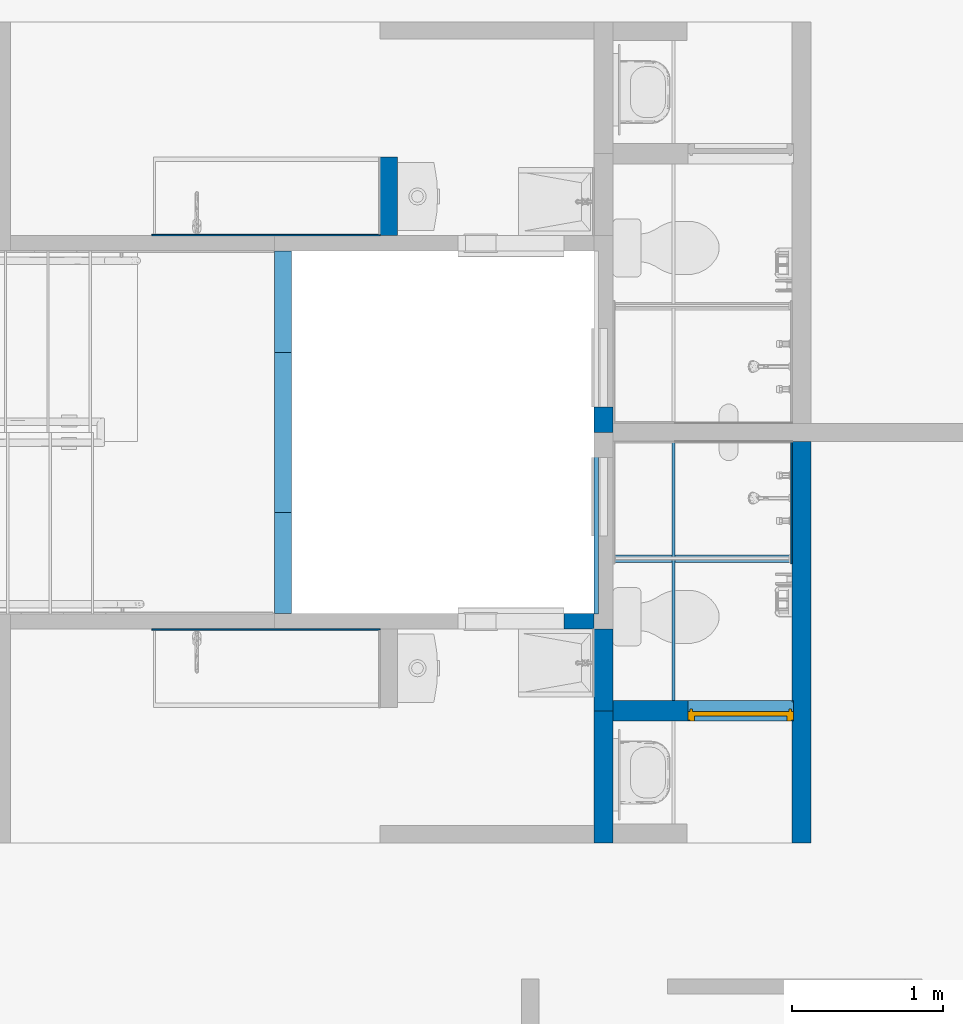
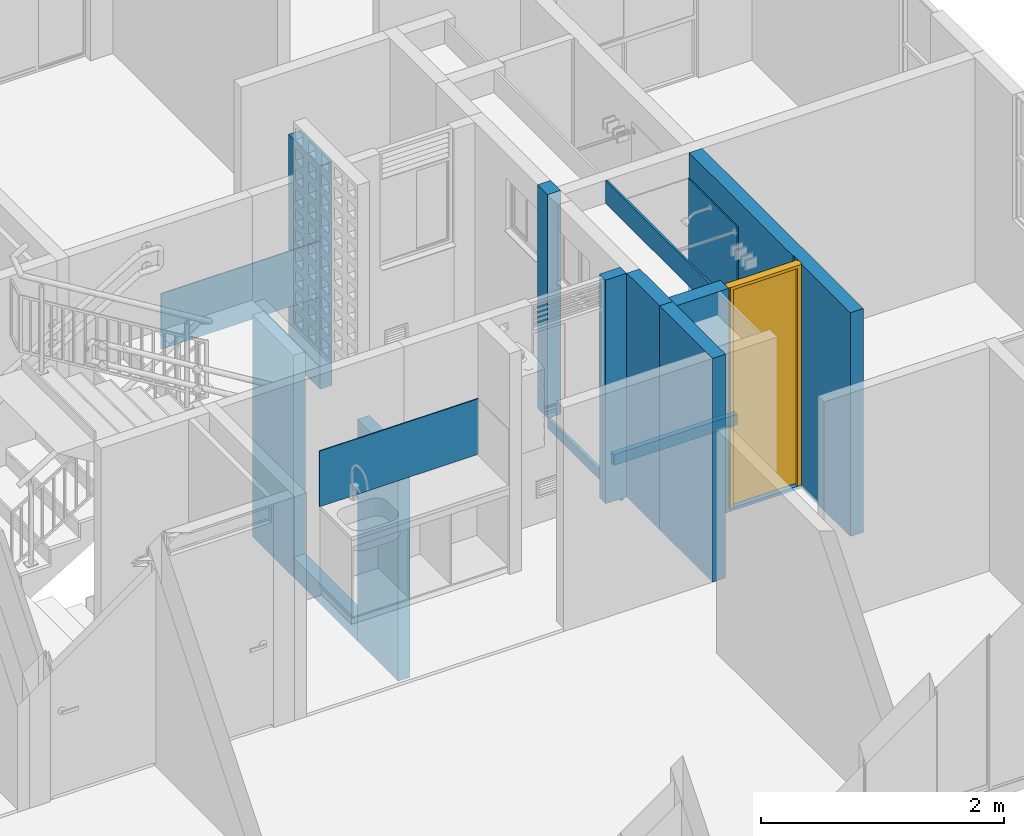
# One storey, part 14 of 48: 16 walls, 1 door, 2 openings.
"""IFC4 building model written with IfcOpenShell, lengths in metres."""

import ifcopenshell
import ifcopenshell.guid

model = None  # the IFC model being written
_history = None  # IfcOwnerHistory: only IFC2X3 demands one
_inside = {}  # id of a spatial element -> (the spatial element, [elements in it])
_under = {}  # id of a project, library or spatial element -> (it, [spatial elements below it])
_declared = {}  # id of a project -> (the project, [libraries it declares])
_typed = {}  # id of a type object -> (the type object, [elements of that type])
_made_of = {}  # id of a material, layer set ... -> (it, [elements and type objects made of it])


def new_model(schema):
    """Start an empty IFC model of exactly this schema.

    Asked for "IFC4X3", IfcOpenShell would pick the latest addendum, in which some entities
    have other attributes; the version numbers below select the first issue.
    IFC2X3 requires an IfcOwnerHistory on every rooted entity: one is made here for all.
    """
    global model, _history
    if schema == "IFC4X3":
        model = ifcopenshell.file(schema_version=(4, 3, 0, 0))
    else:
        model = ifcopenshell.file(schema=schema)
    _inside.clear()
    _under.clear()
    _declared.clear()
    _typed.clear()
    _made_of.clear()
    _history = None
    if model.schema == "IFC2X3":
        org = make("IfcOrganization", Name="unknown")
        user = make(
            "IfcPersonAndOrganization",
            ThePerson=make("IfcPerson", FamilyName="unknown"),
            TheOrganization=org,
        )
        app = make(
            "IfcApplication",
            ApplicationDeveloper=org,
            Version="unknown",
            ApplicationFullName="unknown",
            ApplicationIdentifier="unknown",
        )
        _history = make(
            "IfcOwnerHistory",
            OwningUser=user,
            OwningApplication=app,
            ChangeAction="ADDED",
            CreationDate=0,
        )
    return model


def make(cls, **values):
    """One entity of the class cls with the attributes given. An attribute that is None is left unset."""
    return model.create_entity(
        cls, **{name: value for name, value in values.items() if value is not None}
    )


def entity(cls, *values):
    """Any entity or typed value of the class cls, its attributes in the order of the schema. None: left unset."""
    e = model.create_entity(cls)
    for i, value in enumerate(values):
        if value is not None:
            e[i] = value
    return e


def rooted(cls, **values):
    """An entity with a GlobalId (a new one), such as an element, a storey or a relation."""
    return make(cls, GlobalId=ifcopenshell.guid.new(), OwnerHistory=_history, **values)


def si_unit(unit_type, name, prefix=None):
    """IfcSIUnit, for example si_unit("LENGTHUNIT", "METRE", prefix="MILLI")."""
    return make("IfcSIUnit", UnitType=unit_type, Prefix=prefix, Name=name)


def converted_unit(unit_type, name, factor, base, dimensions=None, offset=None):
    """IfcConversionBasedUnit, such as the inch: factor (a typed value) times the base unit."""
    return make(
        "IfcConversionBasedUnit"
        if offset is None
        else "IfcConversionBasedUnitWithOffset",
        ConversionOffset=offset,
        Dimensions=None
        if dimensions is None
        else entity("IfcDimensionalExponents", *dimensions),
        UnitType=unit_type,
        Name=name,
        ConversionFactor=make(
            "IfcMeasureWithUnit", ValueComponent=factor, UnitComponent=base
        ),
    )


def derived_unit(unit_type, elements):
    """IfcDerivedUnit: a product of units, each with its exponent."""
    return make(
        "IfcDerivedUnit",
        Elements=[
            make("IfcDerivedUnitElement", Unit=unit, Exponent=power)
            for unit, power in elements
        ],
        UnitType=unit_type,
    )


def assignment(units):
    """IfcUnitAssignment: the units of a project."""
    return None if units is None else make("IfcUnitAssignment", Units=units)


def point(xyz):
    """IfcCartesianPoint."""
    return None if xyz is None else make("IfcCartesianPoint", Coordinates=xyz)


def direction(xyz):
    """IfcDirection."""
    return None if xyz is None else make("IfcDirection", DirectionRatios=xyz)


def frame(location, z_axis=None, x_axis=None):
    """IfcAxis2Placement3D, a coordinate frame: its origin and axes. An axis left out is left unset."""
    return make(
        "IfcAxis2Placement3D",
        Location=point(location),
        Axis=direction(z_axis),
        RefDirection=direction(x_axis),
    )


def origin():
    """The frame at (0, 0, 0) with its axes left unset."""
    return frame((0.0, 0.0, 0.0))


def place(relative_to, where):
    """IfcLocalPlacement: puts the frame where relative to a parent placement (None: the world)."""
    return make(
        "IfcLocalPlacement", PlacementRelTo=relative_to, RelativePlacement=where
    )


def context(
    kind, dimensions, precision=None, world=None, true_north=None, identifier=None
):
    """IfcGeometricRepresentationContext, for example the 3D "Model" context."""
    return make(
        "IfcGeometricRepresentationContext",
        ContextIdentifier=identifier,
        ContextType=kind,
        CoordinateSpaceDimension=dimensions,
        Precision=precision,
        WorldCoordinateSystem=world,
        TrueNorth=true_north,
    )


def subcontext(parent, identifier, kind, view, scale=None):
    """IfcGeometricRepresentationSubContext, for example "Body" below "Model"."""
    return make(
        "IfcGeometricRepresentationSubContext",
        ContextIdentifier=identifier,
        ContextType=kind,
        ParentContext=parent,
        TargetScale=scale,
        TargetView=view,
    )


def project(units=None, contexts=None):
    """IfcProject with its units and contexts."""
    return rooted(
        "IfcProject",
        Name="project",
        RepresentationContexts=contexts,
        UnitsInContext=assignment(units),
    )


def spatial(cls, under=None, at=None, **own):
    """A site, building, storey or space (cls), placed at a placement, below another one or the project."""
    s = rooted(cls, ObjectPlacement=at, **own)
    if under is not None:
        _under.setdefault(under.id(), (under, []))[1].append(s)
    return s


def point_list(points):
    """IfcCartesianPointList2D or 3D."""
    cls = (
        "IfcCartesianPointList2D" if len(points[0]) == 2 else "IfcCartesianPointList3D"
    )
    return make(cls, CoordList=points)


def indexed_curve(points, segments=None, self_intersect=None):
    """IfcIndexedPolyCurve: lines and arcs through numbered points (the first is 1)."""
    return make(
        "IfcIndexedPolyCurve",
        Points=point_list(points),
        Segments=segments,
        SelfIntersect=self_intersect,
    )


def outline(outer, holes=None, kind="AREA"):
    """IfcArbitraryClosedProfileDef: a profile drawn as a closed curve; with holes, ...WithVoids."""
    if holes is None:
        return make("IfcArbitraryClosedProfileDef", ProfileType=kind, OuterCurve=outer)
    return make(
        "IfcArbitraryProfileDefWithVoids",
        ProfileType=kind,
        OuterCurve=outer,
        InnerCurves=holes,
    )


def extrude(swept, where, along, depth):
    """IfcExtrudedAreaSolid: the profile swept, set in the frame where, extruded along a direction by depth."""
    return make(
        "IfcExtrudedAreaSolid",
        SweptArea=swept,
        Position=where,
        ExtrudedDirection=direction(along),
        Depth=depth,
    )


def polygons(points, faces, closed=None, point_numbers=None):
    """IfcPolygonalFaceSet: a face is its outer loop, then its inner loops; points numbered from 1."""
    made = []
    for loops in faces:
        if len(loops) == 1:
            made.append(make("IfcIndexedPolygonalFace", CoordIndex=loops[0]))
        else:
            made.append(
                make(
                    "IfcIndexedPolygonalFaceWithVoids",
                    CoordIndex=loops[0],
                    InnerCoordIndices=loops[1:],
                )
            )
    return make(
        "IfcPolygonalFaceSet",
        Coordinates=point_list(points),
        Closed=closed,
        Faces=made,
        PnIndex=point_numbers,
    )


def shape(context_of_items, identifier, shape_type, items):
    """IfcShapeRepresentation: the items that make up one representation, for example the "Body"."""
    return make(
        "IfcShapeRepresentation",
        ContextOfItems=context_of_items,
        RepresentationIdentifier=identifier,
        RepresentationType=shape_type,
        Items=items,
    )


def source(mapping_origin, context_of_items, identifier, shape_type, items):
    """IfcRepresentationMap: a shape defined once, which mapped items show again and again."""
    return make(
        "IfcRepresentationMap",
        MappingOrigin=mapping_origin,
        MappedRepresentation=shape(context_of_items, identifier, shape_type, items),
    )


def transform(
    local_origin,
    x_axis=None,
    y_axis=None,
    z_axis=None,
    scale=None,
    scale2=None,
    scale3=None,
    uniform=True,
):
    """IfcCartesianTransformationOperator3D, or its non-uniform kind. x_axis, y_axis, z_axis: its Axis1, 2, 3."""
    if uniform:
        return make(
            "IfcCartesianTransformationOperator3D",
            Axis1=direction(x_axis),
            Axis2=direction(y_axis),
            LocalOrigin=point(local_origin),
            Scale=scale,
            Axis3=direction(z_axis),
        )
    return make(
        "IfcCartesianTransformationOperator3DnonUniform",
        Axis1=direction(x_axis),
        Axis2=direction(y_axis),
        LocalOrigin=point(local_origin),
        Scale=scale,
        Axis3=direction(z_axis),
        Scale2=scale2,
        Scale3=scale3,
    )


def mapped(mapping_source, mapping_target):
    """IfcMappedItem: shows the shape of a source again, moved by a transform."""
    return make(
        "IfcMappedItem", MappingSource=mapping_source, MappingTarget=mapping_target
    )


def material(Name=None, Category=None):
    """IfcMaterial."""
    return make("IfcMaterial", Name=Name, Category=Category)


def constituent(of_material, Name=None, Category=None, fraction=None):
    """IfcMaterialConstituent: one of the materials an element consists of."""
    return make(
        "IfcMaterialConstituent",
        Name=Name,
        Material=of_material,
        Fraction=fraction,
        Category=Category,
    )


def constituent_set(constituents=None, Name=None):
    """IfcMaterialConstituentSet."""
    return make(
        "IfcMaterialConstituentSet", Name=Name, MaterialConstituents=constituents
    )


def made_of(thing, what):
    """Note that an element or type object is made of a material, layer set ...; save() writes the relation."""
    if what is not None:
        _made_of.setdefault(what.id(), (what, []))[1].append(thing)
    return thing


def type_object(cls, material=None, **own):
    """A type object (cls), such as IfcWallType, which elements share."""
    return made_of(rooted(cls, **own), material)


def type_shapes(of_type, sources):
    """Give a type object the sources (RepresentationMaps) that its elements show as mapped items."""
    of_type.RepresentationMaps = sources


def element(
    cls,
    number,
    at=None,
    inside=None,
    cuts=None,
    type_object=None,
    material=None,
    context=None,
    identifier="Body",
    shape_type=None,
    held_by="IfcProductDefinitionShape",
    body=None,
    shapes=None,
    **own,
):
    """One element of the class cls, such as IfcWall. Its Tag is "e" and its number.

    at: its placement. inside: the storey or other place that contains it. cuts: it is an
    opening in that element (IfcRelVoidsElement). A single representation is given by context,
    identifier, shape_type and body (its items); several are given by shapes. held_by: the class
    of the entity that holds the representations. save() writes the other relations.
    """
    e = rooted(cls, Tag="e%d" % number, ObjectPlacement=at, **own)
    if body is not None:
        shapes = [shape(context, identifier, shape_type, body)]
    if shapes is not None:
        e.Representation = make(held_by, Representations=shapes)
    if inside is not None:
        _inside.setdefault(inside.id(), (inside, []))[1].append(e)
    if cuts is not None:
        rooted(
            "IfcRelVoidsElement", RelatingBuildingElement=cuts, RelatedOpeningElement=e
        )
    if type_object is not None:
        _typed.setdefault(type_object.id(), (type_object, []))[1].append(e)
    return made_of(e, material)


def fill(opening, filler):
    """IfcRelFillsElement: the door or window that sits in an opening."""
    return rooted(
        "IfcRelFillsElement",
        RelatingOpeningElement=opening,
        RelatedBuildingElement=filler,
    )


def aggregate(whole, parts):
    """IfcRelAggregates: a whole, such as a stair, and the parts it consists of."""
    return rooted("IfcRelAggregates", RelatingObject=whole, RelatedObjects=parts)


def save(model, path):
    """Write the relations noted so far, then the file.

    IfcRelAggregates (storeys below a building ...), IfcRelContainedInSpatialStructure (elements
    in a storey), IfcRelDefinesByType, IfcRelAssociatesMaterial and IfcRelDeclares: one each for
    every whole, place, type object, material and project.
    """
    for whole, parts in _under.values():
        aggregate(whole, parts)
    for where, things in _inside.values():
        rooted(
            "IfcRelContainedInSpatialStructure",
            RelatedElements=things,
            RelatingStructure=where,
        )
    for kind, things in _typed.values():
        rooted("IfcRelDefinesByType", RelatedObjects=things, RelatingType=kind)
    for what, things in _made_of.values():
        rooted("IfcRelAssociatesMaterial", RelatedObjects=things, RelatingMaterial=what)
    for by, libraries in _declared.values():
        rooted("IfcRelDeclares", RelatingContext=by, RelatedDefinitions=libraries)
    model.write(path)


model = new_model("IFC4")

# Units and contexts
model_context = context("Model", 3, precision=1e-05, world=origin(), true_north=direction((6.123031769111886e-17, 1.0)))
body_context = subcontext(model_context, "Body", "Model", "MODEL_VIEW")
ifc_project = project(units=[si_unit("LENGTHUNIT", "METRE"), si_unit("AREAUNIT", "SQUARE_METRE"), si_unit("VOLUMEUNIT", "CUBIC_METRE"), converted_unit("PLANEANGLEUNIT", "DEGREE", entity("IfcRatioMeasure", 0.017453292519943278), si_unit("PLANEANGLEUNIT", "RADIAN"), dimensions=[0, 0, 0, 0, 0, 0, 0]), si_unit("MASSUNIT", "GRAM", prefix="KILO"), derived_unit("MASSDENSITYUNIT", [(si_unit("MASSUNIT", "GRAM", prefix="KILO"), 1), (si_unit("LENGTHUNIT", "METRE"), -3)]), derived_unit("IONCONCENTRATIONUNIT", [(si_unit("MASSUNIT", "GRAM", prefix="KILO"), 1), (si_unit("LENGTHUNIT", "METRE"), -3)]), derived_unit("MOMENTOFINERTIAUNIT", [(si_unit("LENGTHUNIT", "METRE"), 4)]), si_unit("TIMEUNIT", "SECOND"), si_unit("FREQUENCYUNIT", "HERTZ"), si_unit("THERMODYNAMICTEMPERATUREUNIT", "DEGREE_CELSIUS"), derived_unit("THERMALTRANSMITTANCEUNIT", [(si_unit("MASSUNIT", "GRAM", prefix="KILO"), 1), (si_unit("THERMODYNAMICTEMPERATUREUNIT", "KELVIN"), -1), (si_unit("TIMEUNIT", "SECOND"), -3)]), derived_unit("THERMALCONDUCTANCEUNIT", [(si_unit("MASSUNIT", "GRAM", prefix="KILO"), 1), (si_unit("THERMODYNAMICTEMPERATUREUNIT", "KELVIN"), -1), (si_unit("TIMEUNIT", "SECOND"), -3), (si_unit("LENGTHUNIT", "METRE"), 1)]), derived_unit("VOLUMETRICFLOWRATEUNIT", [(si_unit("LENGTHUNIT", "METRE"), 3), (si_unit("TIMEUNIT", "SECOND"), -1)]), derived_unit("MASSFLOWRATEUNIT", [(si_unit("MASSUNIT", "GRAM", prefix="KILO"), 1), (si_unit("TIMEUNIT", "SECOND"), -1)]), derived_unit("ROTATIONALFREQUENCYUNIT", [(si_unit("TIMEUNIT", "SECOND"), -1)]), si_unit("ELECTRICCURRENTUNIT", "AMPERE"), si_unit("ELECTRICVOLTAGEUNIT", "VOLT"), si_unit("POWERUNIT", "WATT"), si_unit("FORCEUNIT", "NEWTON", prefix="KILO"), si_unit("ILLUMINANCEUNIT", "LUX"), si_unit("LUMINOUSFLUXUNIT", "LUMEN"), si_unit("LUMINOUSINTENSITYUNIT", "CANDELA"), derived_unit("USERDEFINED", [(si_unit("MASSUNIT", "GRAM", prefix="KILO"), -1), (si_unit("LENGTHUNIT", "METRE"), -2), (si_unit("TIMEUNIT", "SECOND"), 3), (si_unit("LUMINOUSFLUXUNIT", "LUMEN"), 1)]), derived_unit("USERDEFINED", [(si_unit("MASSUNIT", "GRAM", prefix="KILO"), 1), (si_unit("TIMEUNIT", "SECOND"), -3), (si_unit("LENGTHUNIT", "METRE"), 3), (si_unit("ELECTRICCURRENTUNIT", "AMPERE"), -2)]), derived_unit("SOUNDPOWERUNIT", [(si_unit("MASSUNIT", "GRAM", prefix="KILO"), 1), (si_unit("TIMEUNIT", "SECOND"), -3), (si_unit("LENGTHUNIT", "METRE"), 2)]), derived_unit("SOUNDPRESSUREUNIT", [(si_unit("MASSUNIT", "GRAM", prefix="KILO"), 1), (si_unit("LENGTHUNIT", "METRE"), -1), (si_unit("TIMEUNIT", "SECOND"), -2)]), derived_unit("LINEARVELOCITYUNIT", [(si_unit("LENGTHUNIT", "METRE"), 1), (si_unit("TIMEUNIT", "SECOND"), -1)]), si_unit("PRESSUREUNIT", "PASCAL"), derived_unit("USERDEFINED", [(si_unit("MASSUNIT", "GRAM", prefix="KILO"), 1), (si_unit("LENGTHUNIT", "METRE"), -2), (si_unit("TIMEUNIT", "SECOND"), -2)]), derived_unit("LINEARFORCEUNIT", [(si_unit("MASSUNIT", "GRAM", prefix="KILO"), 1), (si_unit("TIMEUNIT", "SECOND"), -2)]), derived_unit("PLANARFORCEUNIT", [(si_unit("MASSUNIT", "GRAM", prefix="KILO"), 1), (si_unit("LENGTHUNIT", "METRE"), -1), (si_unit("TIMEUNIT", "SECOND"), -2)]), derived_unit("SPECIFICHEATCAPACITYUNIT", [(si_unit("THERMODYNAMICTEMPERATUREUNIT", "KELVIN"), -1), (si_unit("LENGTHUNIT", "METRE"), 2), (si_unit("TIMEUNIT", "SECOND"), -2)]), derived_unit("HEATINGVALUEUNIT", [(si_unit("LENGTHUNIT", "METRE"), 2), (si_unit("TIMEUNIT", "SECOND"), -2)]), derived_unit("VAPORPERMEABILITYUNIT", [(si_unit("LENGTHUNIT", "METRE"), -1), (si_unit("TIMEUNIT", "SECOND"), 1)]), derived_unit("DYNAMICVISCOSITYUNIT", [(si_unit("MASSUNIT", "GRAM", prefix="KILO"), 1), (si_unit("TIMEUNIT", "SECOND"), -1), (si_unit("LENGTHUNIT", "METRE"), -1)]), derived_unit("THERMALEXPANSIONCOEFFICIENTUNIT", [(si_unit("THERMODYNAMICTEMPERATUREUNIT", "KELVIN"), -1)]), derived_unit("MODULUSOFELASTICITYUNIT", [(si_unit("MASSUNIT", "GRAM", prefix="KILO"), 1), (si_unit("LENGTHUNIT", "METRE"), -1), (si_unit("TIMEUNIT", "SECOND"), -2)]), derived_unit("ISOTHERMALMOISTURECAPACITYUNIT", [(si_unit("LENGTHUNIT", "METRE"), 3), (si_unit("MASSUNIT", "GRAM", prefix="KILO"), -1)]), derived_unit("MOISTUREDIFFUSIVITYUNIT", [(si_unit("TIMEUNIT", "SECOND"), -1), (si_unit("LENGTHUNIT", "METRE"), 2)])], contexts=[model_context])

# Site, building, storey
site_placement = place(None, origin())
site = spatial("IfcSite", under=ifc_project, at=site_placement, Name="Default", CompositionType="ELEMENT")
building_placement = place(site_placement, origin())
building = spatial("IfcBuilding", under=site, at=building_placement, CompositionType="ELEMENT")
storey_placement = place(building_placement, frame((0.0, 0.0, 4.700000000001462)))
storey = spatial("IfcBuildingStorey", under=building, at=storey_placement, Name="Nivel 3", CompositionType="ELEMENT", Elevation=4.700000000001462)

# Walls
ifc_material_1 = material(Name="Ladrillo claro (Aire)", Category="Materials")
wall_type_1 = type_object("IfcWallType", Name="Basic Wall:B2010 - 0.115m - Muro interior en mampostería - Ladrillo", PredefinedType="STANDARD")
wall_1_placement = place(storey_placement, frame((12.500000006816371, -7.62450002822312, -1.1750000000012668), z_axis=(0.0, 0.0, 1.0), x_axis=(0.0, 1.0, 0.0)))
element("IfcWall", 1, at=wall_1_placement, inside=storey, type_object=wall_type_1, material=ifc_material_1, Name="Basic Wall:B2010 - 0.115m - Muro interior en mampostería - Ladrillo", ObjectType="Basic Wall:B2010 - 0.115m - Muro interior en mampostería - Ladrillo", PredefinedType="NOTDEFINED", context=body_context, shape_type="SweptSolid", body=[
    extrude(outline(indexed_curve([(0.669594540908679, 0.05749999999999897), (-1.0377476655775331e-16, 0.057499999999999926), (1.0377476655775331e-16, -0.057499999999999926), (0.6695945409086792, -0.05750000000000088), (0.669594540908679, 0.05749999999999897)], self_intersect=False)), origin(), (0.0, 0.0, 1.0), 2.230000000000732),
])
wall_2_placement = place(storey_placement, frame((12.500000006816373, -5.897500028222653, -1.1750000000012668), z_axis=(0.0, 0.0, 1.0), x_axis=(0.0, 1.0, 0.0)))
element("IfcWall", 2, at=wall_2_placement, inside=storey, type_object=wall_type_1, material=ifc_material_1, Name="Basic Wall:B2010 - 0.115m - Muro interior en mampostería - Ladrillo", ObjectType="Basic Wall:B2010 - 0.115m - Muro interior en mampostería - Ladrillo", PredefinedType="NOTDEFINED", context=body_context, shape_type="SweptSolid", body=[
    extrude(outline(indexed_curve([(0.6719999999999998, 0.05749999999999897), (-1.0377476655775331e-16, 0.057499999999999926), (1.0377476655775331e-16, -0.057499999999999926), (0.672, -0.05750000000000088), (0.6719999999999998, 0.05749999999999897)], self_intersect=False)), origin(), (0.0, 0.0, 1.0), 2.230000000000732),
])
wall_3_placement = place(storey_placement, frame((12.500000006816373, -6.954905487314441, -1.1750000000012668), z_axis=(0.0, 0.0, 1.0), x_axis=(0.0, 1.0, 0.0)))
element("IfcWall", 3, at=wall_3_placement, inside=storey, type_object=wall_type_1, material=ifc_material_1, Name="Basic Wall:B2010 - 0.115m - Muro interior en mampostería - Ladrillo", ObjectType="Basic Wall:B2010 - 0.115m - Muro interior en mampostería - Ladrillo", PredefinedType="NOTDEFINED", context=body_context, shape_type="SweptSolid", body=[
    extrude(outline(indexed_curve([(1.057405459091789, 0.057499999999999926), (-1.1776912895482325e-16, 0.057499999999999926), (1.1776912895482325e-16, -0.057499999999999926), (1.0574054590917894, -0.057499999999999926), (1.057405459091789, 0.057499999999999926)], self_intersect=False)), origin(), (0.0, 0.0, 1.0), 0.20000000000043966),
])

# Wall, opening
ifc_material_2 = material(Name="Pañete", Category="Materials")
ifc_constituent_1 = constituent(ifc_material_2, Name="Pañete", Category="Materials")
ifc_constituent_2 = constituent(ifc_material_1, Name="Ladrillo claro (Aire)", Category="Materials")
ifc_constituent_set_1 = constituent_set(constituents=[ifc_constituent_1, ifc_constituent_2], Name="Basic Wall:B2010 - 0.115m - Muro interior en mampostería - Ladrillo + Pañete")
wall_type_2 = type_object("IfcWallType", Name="Basic Wall:B2010 - 0.115m - Muro interior en mampostería - Ladrillo + Pañete", PredefinedType="STANDARD", material=ifc_constituent_set_1)
wall_4_placement = place(storey_placement, frame((15.92999894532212, -9.139999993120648, 0.0), z_axis=(0.0, 0.0, 1.0), x_axis=(0.0, 1.0, 0.0)))
wall_4 = element("IfcWall", 4, at=wall_4_placement, inside=storey, type_object=wall_type_2, material=ifc_constituent_set_1, Name="Basic Wall:B2010 - 0.115m - Muro interior en mampostería - Ladrillo + Pañete", ObjectType="Basic Wall:B2010 - 0.115m - Muro interior en mampostería - Ladrillo + Pañete", PredefinedType="NOTDEFINED", context=body_context, shape_type="SweptSolid", body=[
    extrude(outline(indexed_curve([(-0.7550000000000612, -1.4629166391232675), (1.4949999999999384, -1.4629166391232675), (1.4949999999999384, 0.25208332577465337), (-0.7249999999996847, 0.25208332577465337), (-0.7249999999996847, 0.38708332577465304), (1.4949999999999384, 0.38708332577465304), (1.4949999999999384, 1.1920833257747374), (-0.7550000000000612, 1.1920833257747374), (-0.7550000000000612, 0.38708332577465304), (-0.7550000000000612, 0.25208332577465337), (-0.7550000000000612, -0.6629166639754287), (-0.7550000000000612, -0.7129166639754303), (-0.7550000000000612, -1.4629166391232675)], self_intersect=False)), frame((1.1920833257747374, 0.06250000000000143, 0.7550000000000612), z_axis=(0.0, -1.0, 0.0), x_axis=(0.0, 0.0, 1.0)), (0.0, 0.0, 1.0), 0.009999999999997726),
    extrude(outline(indexed_curve([(-0.05750000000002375, -1.3274999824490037), (0.0574999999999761, -1.3274999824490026), (0.05750000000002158, 1.3274999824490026), (-0.05749999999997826, 1.3274999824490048), (-0.05750000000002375, -1.3274999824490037)], self_intersect=False)), frame((1.3274999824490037, -0.00499999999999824, 0.0), z_axis=(0.0, 0.0, 1.0), x_axis=(0.0, 1.0, 0.0)), (0.0, 0.0, 1.0), 2.2499999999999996),
])
opening_1_placement = place(wall_4_placement, origin())
element("IfcOpeningElement", 5, at=opening_1_placement, cuts=wall_4, Name="Basic Wall:B2010 - 0.115m - Muro interior en mampostería - Ladrillo + Pañete", PredefinedType="OPENING", context=body_context, shape_type="SweptSolid", body=[
    extrude(outline(indexed_curve([(-0.06749999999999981, -1.1099999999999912), (0.06749999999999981, -1.1099999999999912), (0.06749999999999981, 1.1099999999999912), (-0.06749999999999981, 1.1099999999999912), (-0.06749999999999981, -1.1099999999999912)], self_intersect=False)), frame((0.8725000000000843, 0.05249999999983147, 1.1400000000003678), z_axis=(0.0, 1.0, 0.0), x_axis=(-1.0, 0.0, 0.0)), (0.0, 0.0, 1.0), 0.7000000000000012),
])

# Wall, opening, door
ifc_constituent_3 = constituent(ifc_material_2, Name="Pañete", Category="Materials")
ifc_material_3 = material(Name="LADRILLO CLARO", Category="Materials")
ifc_constituent_4 = constituent(ifc_material_3, Name="LADRILLO CLARO", Category="Materials")
ifc_constituent_5 = constituent(ifc_material_2, Name="Pañete (2)", Category="Materials")
ifc_constituent_set_2 = constituent_set(constituents=[ifc_constituent_3, ifc_constituent_4, ifc_constituent_5], Name="Basic Wall:B2010 - 0.115m - MI  mampostería no estructural - Pañete + Ladrillo + Pañete")
wall_type_3 = type_object("IfcWallType", Name="Basic Wall:B2010 - 0.115m - MI  mampostería no estructural - Pañete + Ladrillo + Pañete", PredefinedType="STANDARD", material=ifc_constituent_set_2)
wall_5_placement = place(storey_placement, frame((14.68250000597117, -8.267499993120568, 0.0)))
wall_5 = element("IfcWall", 6, at=wall_5_placement, inside=storey, type_object=wall_type_3, material=ifc_constituent_set_2, Name="Basic Wall:B2010 - 0.115m - MI  mampostería no estructural - Pañete + Ladrillo + Pañete", ObjectType="Basic Wall:B2010 - 0.115m - MI  mampostería no estructural - Pañete + Ladrillo + Pañete", PredefinedType="NOTDEFINED", context=body_context, shape_type="SweptSolid", body=[
    extrude(outline(indexed_curve([(-0.7600000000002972, -0.5599992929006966), (1.4900000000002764, -0.5599992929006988), (1.4900000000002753, -0.06500035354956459), (-0.729999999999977, -0.06500035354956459), (-0.729999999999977, 0.6249996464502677), (-0.7600000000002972, 0.6249996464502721), (-0.7600000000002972, -0.5599992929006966)], self_intersect=False)), frame((0.5599992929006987, 0.05750000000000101, 0.7600000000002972), z_axis=(0.0, 1.0, 0.0), x_axis=(0.0, 0.0, 1.0)), (0.0, 0.0, 1.0), 0.009999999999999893),
    extrude(outline(indexed_curve([(-1.1325000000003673, -0.5199994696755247), (1.1175000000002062, -0.5199994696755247), (1.1175000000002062, -0.12999946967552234), (1.1175000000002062, -0.10999946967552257), (1.1175000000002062, -0.025000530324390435), (-1.102500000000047, -0.025000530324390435), (-1.102500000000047, 0.6649994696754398), (-1.1325000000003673, 0.6649994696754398), (-1.1325000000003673, -0.5199994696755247)], self_intersect=False)), frame((0.5199994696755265, -0.06749999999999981, 1.1325000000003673), z_axis=(0.0, 1.0, 0.0), x_axis=(0.0, 0.0, 1.0)), (0.0, 0.0, 1.0), 0.009999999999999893),
    extrude(outline(indexed_curve([(-0.7600000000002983, -0.5633326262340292), (1.4900000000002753, -0.5633326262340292), (1.4900000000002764, -0.068333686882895), (-0.7299999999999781, -0.068333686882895), (-0.7299999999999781, 0.631666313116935), (-0.7600000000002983, 0.631666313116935), (-0.7600000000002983, -0.5633326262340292)], self_intersect=False)), frame((0.5633326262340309, -0.05750000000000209, 0.7600000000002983), z_axis=(0.0, 1.0, 0.0), x_axis=(0.0, 0.0, 1.0)), (0.0, 0.0, 1.0), 0.11499999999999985),
])
opening_2_placement = place(wall_5_placement, frame((0.49499893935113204, -0.06749999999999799, 0.0299999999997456)))
opening_2 = element("IfcOpeningElement", 7, at=opening_2_placement, cuts=wall_5, Name="C1030 - Puerta batiente - Madera+Aluminio:C1030 - 0.70 x 2.22 - Puerta batiente - Madera+ Metal:1", PredefinedType="OPENING", context=body_context, shape_type="SweptSolid", body=[
    extrude(outline(indexed_curve([(-2.8961849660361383e-19, 1.218225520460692e-15), (2.2199999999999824, 1.218225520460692e-15), (2.2199999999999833, 0.7000000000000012), (1.438182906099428e-16, 0.7000000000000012), (-2.8961849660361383e-19, 1.218225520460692e-15)], self_intersect=False)), frame((0.0, 0.0, 0.0), z_axis=(0.0, 1.0, 0.0), x_axis=(0.0, 0.0, 1.0)), (0.0, 0.0, 1.0), 0.13499999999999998),
])
ifc_material_4 = material(Name="<Unnamed>")
door_type = type_object("IfcDoorType", Name="C1030 - Puerta batiente - Madera+Aluminio:C1030 - 0.70 x 2.22 - Puerta batiente - Madera+ Metal", OperationType="SINGLE_SWING_RIGHT", PredefinedType="DOOR", material=ifc_material_4)
shared_shape = source(origin(), body_context, "Body", "Tessellation", [
    polygons([(0.030000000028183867, 0.06499999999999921, 0.009880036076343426), (0.6699999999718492, 0.06499999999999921, 0.009880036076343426), (0.6699999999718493, 0.0324999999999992, 0.009880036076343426), (0.030000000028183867, 0.0324999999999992, 0.009880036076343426), (0.030000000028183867, 0.06499999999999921, 2.2050000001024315), (0.030000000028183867, 0.0324999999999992, 2.2050000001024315), (0.6699999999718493, 0.0324999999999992, 2.2050000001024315), (0.6699999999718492, 0.06499999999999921, 2.2050000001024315)], [[[1, 2, 3, 4]], [[5, 1, 4, 6]], [[6, 4, 3, 7]], [[7, 3, 2, 8]], [[8, 2, 1, 5]], [[5, 6, 7, 8]]], closed=True),
    polygons([(0.015000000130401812, 0.0649999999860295, 0.0), (0.015000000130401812, 0.07999999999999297, 0.0), (0.030000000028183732, 0.07999999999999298, 0.0), (0.030000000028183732, 0.04000000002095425, 0.0), (0.045000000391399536, 0.04000000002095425, 0.0), (0.045000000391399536, -1.6919798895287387e-17, 0.0), (0.015000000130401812, -5.075939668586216e-17, 0.0), (0.015000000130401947, 0.007499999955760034, 0.0), (1.651372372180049e-14, 0.0074999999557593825, 0.0), (1.651372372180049e-14, 0.0649999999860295, 0.0), (1.651372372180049e-14, 0.0074999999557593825, 2.2199999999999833), (0.015000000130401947, 0.007499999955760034, 2.2199999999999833), (0.015000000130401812, 0.0649999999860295, 2.2199999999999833), (1.651372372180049e-14, 0.0649999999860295, 2.2199999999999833), (0.6849999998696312, 0.06499999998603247, 0.0), (0.7000000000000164, 0.06499999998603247, 0.0), (0.7000000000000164, 0.007499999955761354, 0.0), (0.6849999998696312, 0.007499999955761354, 0.0), (0.6849999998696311, 0.0, 0.0), (0.6549999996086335, 0.0, 0.0), (0.6549999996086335, 0.04000000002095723, 0.0), (0.6699999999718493, 0.04000000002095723, 0.0), (0.6699999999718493, 0.07999999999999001, 0.0), (0.6849999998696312, 0.07999999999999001, 0.0), (0.7000000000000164, 0.06499999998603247, 2.2199999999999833), (0.6849999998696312, 0.06499999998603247, 2.2199999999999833), (0.6849999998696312, 0.007499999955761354, 2.2199999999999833), (0.7000000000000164, 0.007499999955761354, 2.2199999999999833), (0.6549999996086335, 0.0, 2.189999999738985), (0.6549999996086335, 0.03250000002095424, 2.189999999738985), (0.6549999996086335, 0.03250000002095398, 2.2050000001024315), (0.6549999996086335, 0.04000000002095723, 2.2050000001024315), (0.045000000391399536, 0.04000000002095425, 2.2050000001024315), (0.045000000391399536, 0.03250000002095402, 2.2050000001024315), (0.045000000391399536, 0.032500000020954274, 2.189999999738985), (0.045000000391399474, -1.6919798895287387e-17, 2.189999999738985), (0.6699999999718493, 0.04000000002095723, 2.2050000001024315), (0.6699999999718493, 0.07249999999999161, 2.2050000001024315), (0.6699999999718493, 0.07249999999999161, 2.2199999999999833), (0.6699999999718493, 0.07999999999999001, 2.2199999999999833), (0.030000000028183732, 0.07999999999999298, 2.2199999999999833), (0.030000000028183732, 0.07249999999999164, 2.2199999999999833), (0.030000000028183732, 0.07249999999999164, 2.2050000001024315), (0.030000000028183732, 0.04000000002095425, 2.2050000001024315), (0.6849999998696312, 0.07999999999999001, 2.2199999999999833), (0.6849999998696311, 0.0, 2.2199999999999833), (0.015000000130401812, -5.075939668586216e-17, 2.2199999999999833), (0.015000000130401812, 0.07999999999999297, 2.2199999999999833)], [[[1, 2, 3, 4, 5, 6, 7, 8, 9, 10]], [[11, 9, 8, 12]], [[13, 1, 10, 14]], [[15, 16, 17, 18, 19, 20, 21, 22, 23, 24]], [[25, 16, 15, 26]], [[27, 18, 17, 28]], [[20, 29, 30, 31, 32, 21]], [[5, 33, 34, 35, 36, 6]], [[22, 37, 38, 39, 40, 23]], [[3, 41, 42, 43, 44, 4]], [[28, 17, 16, 25]], [[14, 10, 9, 11]], [[26, 15, 24, 45]], [[45, 24, 23, 40]], [[21, 32, 37, 22]], [[19, 46, 47, 7, 6, 36, 29, 20]], [[46, 19, 18, 27]], [[12, 8, 7, 47]], [[48, 2, 1, 13]], [[26, 45, 40, 39, 42, 41, 48, 13, 14, 11, 12, 47, 46, 27, 28, 25]], [[38, 37, 32, 31, 34, 33, 44, 43]], [[36, 35, 30, 29]], [[4, 44, 33, 5]], [[41, 3, 2, 48]], [[35, 34, 31, 30]], [[43, 42, 39, 38]]], closed=True),
])
type_shapes(door_type, [shared_shape])
door_placement = place(opening_2_placement, origin())
door = element("IfcDoor", 8, at=door_placement, inside=storey, type_object=door_type, material=ifc_material_4, Name="C1030 - Puerta batiente - Madera+Aluminio:C1030 - 0.70 x 2.22 - Puerta batiente - Madera+ Metal", ObjectType="C1030 - Puerta batiente - Madera+Aluminio:C1030 - 0.70 x 2.22 - Puerta batiente - Madera+ Metal", OperationType="SINGLE_SWING_RIGHT", OverallHeight=2.2199999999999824, OverallWidth=0.7000000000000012, PredefinedType="DOOR", context=body_context, shape_type="MappedRepresentation", body=[
    mapped(shared_shape, transform((0.0, 0.0, 0.0), scale=1.0)),
])
fill(opening_2, door)

# Walls
ifc_material_5 = material(Name="PINTURA BLANCA PARA EXTERIORES", Category="Materials")
ifc_constituent_6 = constituent(ifc_material_5, Name="PINTURA BLANCA PARA EXTERIORES", Category="Materials")
ifc_material_6 = material(Name="Concreto - Fundido in situ", Category="Materials")
ifc_constituent_7 = constituent(ifc_material_6, Name="Concreto - Fundido in situ", Category="Materials")
ifc_constituent_set_3 = constituent_set(constituents=[ifc_constituent_6, ifc_constituent_7], Name="Basic Wall:B2010 - 0.10m - MI no estructural- Concreto + repello+ pintura blanca")
wall_type_4 = type_object("IfcWallType", Name="Basic Wall:B2010 - 0.10m - MI no estructural- Concreto + repello+ pintura blanca", PredefinedType="STANDARD", material=ifc_constituent_set_3)
wall_6_placement = place(storey_placement, frame((14.557500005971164, -7.675000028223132, 0.0), z_axis=(0.0, 0.0, 1.0), x_axis=(-1.0, 0.0, 0.0)))
element("IfcWall", 9, at=wall_6_placement, inside=storey, type_object=wall_type_4, material=ifc_constituent_set_3, Name="Basic Wall:B2010 - 0.10m - MI no estructural- Concreto + repello+ pintura blanca", ObjectType="Basic Wall:B2010 - 0.10m - MI no estructural- Concreto + repello+ pintura blanca", PredefinedType="NOTDEFINED", context=body_context, shape_type="SweptSolid", body=[
    extrude(outline(indexed_curve([(-0.0004999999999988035, -0.10000000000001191), (0.0005000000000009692, -0.10000000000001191), (0.0004999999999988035, 0.10000000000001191), (-0.0005000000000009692, 0.10000000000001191), (-0.0004999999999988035, -0.10000000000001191)], self_intersect=False)), frame((0.10000000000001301, -0.04999999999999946, 0.0), z_axis=(0.0, 0.0, 1.0), x_axis=(0.0, 1.0, 0.0)), (0.0, 0.0, 1.0), 2.2499999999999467),
    extrude(outline(indexed_curve([(-0.050000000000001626, -0.10000000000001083), (0.04999999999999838, -0.10000000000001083), (0.050000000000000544, 0.10000000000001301), (-0.04999999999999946, 0.10000000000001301), (-0.050000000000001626, -0.10000000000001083)], self_intersect=False)), frame((0.1000000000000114, 0.0004999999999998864, 0.0), z_axis=(0.0, 0.0, 1.0), x_axis=(0.0, -1.0, 0.0)), (0.0, 0.0, 1.0), 2.2499999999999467),
])
wall_type_5 = type_object("IfcWallType", Name="Basic Wall:B2010 - 0.115m - MI mampostería no estructural - Ladrillo", PredefinedType="STANDARD")
wall_7_placement = place(storey_placement, frame((13.200000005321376, -4.605000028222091, 0.0), z_axis=(0.0, 0.0, 1.0), x_axis=(0.0, -1.0, 0.0)))
element("IfcWall", 10, at=wall_7_placement, inside=storey, type_object=wall_type_5, material=ifc_material_3, Name="Basic Wall:B2010 - 0.115m - MI mampostería no estructural - Ladrillo", ObjectType="Basic Wall:B2010 - 0.115m - MI mampostería no estructural - Ladrillo", PredefinedType="NOTDEFINED", context=body_context, shape_type="SweptSolid", body=[
    extrude(outline(indexed_curve([(0.5195000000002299, 0.0574999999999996), (-2.0425946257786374e-16, 0.057499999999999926), (2.0425946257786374e-16, -0.057499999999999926), (0.5195000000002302, -0.057500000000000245), (0.5195000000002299, 0.0574999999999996)], self_intersect=False)), origin(), (0.0, 0.0, 1.0), 2.2500000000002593),
])
ifc_material_7 = material(Name="Pañete, estuco y pintura", Category="Materials")
ifc_constituent_8 = constituent(ifc_material_7, Name="Pañete, estuco y pintura", Category="Materials")
ifc_constituent_9 = constituent(ifc_material_1, Name="Ladrillo claro (Aire)", Category="Materials")
ifc_constituent_set_4 = constituent_set(constituents=[ifc_constituent_8, ifc_constituent_9], Name="Basic Wall:B2010 - 0.115m - Muro interior en mampostería - Ladrillo + Pañete+ estuco+ pintura")
wall_type_6 = type_object("IfcWallType", Name="Basic Wall:B2010 - 0.115m - Muro interior en mampostería - Ladrillo + Pañete+ estuco+ pintura", PredefinedType="STANDARD", material=ifc_constituent_set_4)
wall_8_placement = place(storey_placement, frame((14.620000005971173, -9.139999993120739, 0.0), z_axis=(0.0, 0.0, 1.0), x_axis=(0.0, 1.0, 0.0)))
element("IfcWall", 11, at=wall_8_placement, inside=storey, type_object=wall_type_6, material=ifc_constituent_set_4, Name="Basic Wall:B2010 - 0.115m - Muro interior en mampostería - Ladrillo + Pañete+ estuco+ pintura", ObjectType="Basic Wall:B2010 - 0.115m - Muro interior en mampostería - Ladrillo + Pañete+ estuco+ pintura", PredefinedType="NOTDEFINED", context=body_context, shape_type="SweptSolid", body=[
    extrude(outline(indexed_curve([(-0.32083333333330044, -0.003333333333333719), (0.35916666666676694, -0.003333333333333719), (0.4266666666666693, -0.0033333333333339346), (0.4266666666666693, 0.006666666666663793), (-0.44583333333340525, 0.006666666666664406), (-0.44583333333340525, -0.003333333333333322), (-0.32083333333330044, -0.003333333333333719)], self_intersect=False)), frame((0.44583333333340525, -0.059166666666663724, 0.0)), (0.0, 0.0, 1.0), 2.2499999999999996),
    extrude(outline(indexed_curve([(0.2570000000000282, -0.046000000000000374), (0.37200000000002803, -0.046000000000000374), (0.37200000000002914, 0.06900000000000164), (-0.5005000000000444, 0.06899999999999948), (-0.5005000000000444, -0.04600000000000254), (0.2570000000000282, -0.046000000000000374)], self_intersect=False)), frame((0.3720000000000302, 0.016500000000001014, 0.0), z_axis=(0.0, 0.0, 1.0), x_axis=(-1.0, 0.0, 0.0)), (0.0, 0.0, 1.0), 2.2499999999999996),
])
wall_9_placement = place(storey_placement, frame((14.620000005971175, -8.26749999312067, 0.0), z_axis=(0.0, 0.0, 1.0), x_axis=(0.0, 1.0, 0.0)))
element("IfcWall", 12, at=wall_9_placement, inside=storey, type_object=wall_type_6, material=ifc_constituent_set_4, Name="Basic Wall:B2010 - 0.115m - Muro interior en mampostería - Ladrillo + Pañete+ estuco+ pintura", ObjectType="Basic Wall:B2010 - 0.115m - Muro interior en mampostería - Ladrillo + Pañete+ estuco+ pintura", PredefinedType="NOTDEFINED", context=body_context, shape_type="SweptSolid", body=[
    extrude(outline(indexed_curve([(-0.16280569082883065, -0.003999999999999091), (0.3117085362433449, -0.003999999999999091), (0.3117085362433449, 0.005999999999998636), (-0.23030569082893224, 0.005999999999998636), (-0.23030569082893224, -0.003999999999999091), (-0.16280569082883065, -0.003999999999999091)], self_intersect=False)), frame((0.23030569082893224, -0.05850000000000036, 0.0)), (0.0, 0.0, 1.0), 2.2499999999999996),
    extrude(outline(indexed_curve([(0.09067143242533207, -0.03833333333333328), (0.12467143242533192, -0.03833333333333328), (0.21717139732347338, -0.03833333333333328), (0.21717139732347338, 0.07666666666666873), (-0.32484282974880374, 0.07666666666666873), (-0.32484282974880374, -0.03833333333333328), (0.09067143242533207, -0.03833333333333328)], self_intersect=False)), frame((0.21717139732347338, 0.024166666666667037, 0.0), z_axis=(0.0, 0.0, 1.0), x_axis=(-1.0, 0.0, 0.0)), (0.0, 0.0, 1.0), 2.2499999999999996),
])
ifc_material_8 = material(Name="Ceramica 0.25m x 0.35m", Category="Materials")
wall_type_7 = type_object("IfcWallType", Name="Basic Wall:C2010 - 0.25 x 0.35 - Enchape cerámico", PredefinedType="STANDARD")
wall_10_placement = place(storey_placement, frame((15.862498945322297, -6.485000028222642, 0.02999999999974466), z_axis=(0.0, 0.0, 1.0), x_axis=(0.0, -1.0, 0.0)))
element("IfcWall", 13, at=wall_10_placement, inside=storey, type_object=wall_type_7, material=ifc_material_8, Name="Basic Wall:C2010 - 0.25 x 0.35 - Enchape cerámico", ObjectType="Basic Wall:C2010 - 0.25 x 0.35 - Enchape cerámico", PredefinedType="NOTDEFINED", context=body_context, shape_type="SweptSolid", body=[
    extrude(outline(indexed_curve([(0.8100000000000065, 0.005000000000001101), (-4.468811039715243e-19, 0.005000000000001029), (4.468811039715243e-19, -0.005000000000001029), (0.8100000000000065, -0.005000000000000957), (0.8100000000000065, 0.005000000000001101)], self_intersect=False)), origin(), (0.0, 0.0, 1.0), 1.9700000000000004),
])
ifc_material_9 = material(Name="0 muro divisorio", Category="Materials")
wall_type_8 = type_object("IfcWallType", Name="Basic Wall:B2010 - 0.05m - Poyo para duchas - Concreto", PredefinedType="STANDARD")
wall_11_placement = place(storey_placement, frame((15.86749894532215, -7.260000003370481, 0.0), z_axis=(0.0, 0.0, 1.0), x_axis=(-1.0, 0.0, 0.0)))
element("IfcWall", 14, at=wall_11_placement, inside=storey, type_object=wall_type_8, material=ifc_material_9, Name="Basic Wall:B2010 - 0.05m - Poyo para duchas - Concreto", ObjectType="Basic Wall:B2010 - 0.05m - Poyo para duchas - Concreto", PredefinedType="NOTDEFINED", context=body_context, shape_type="SweptSolid", body=[
    extrude(outline(indexed_curve([(1.174998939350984, 0.024999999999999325), (7.772420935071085e-17, 0.02499999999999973), (-7.772420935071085e-17, -0.02499999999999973), (1.1749989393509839, -0.025000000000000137), (1.174998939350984, 0.024999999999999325)], self_intersect=False)), origin(), (0.0, 0.0, 1.0), 0.11000000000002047),
])
ifc_material_10 = material(Name="Plasterboard", Category="Materials")
wall_type_9 = type_object("IfcWallType", Name="Basic Wall:C1070 - 0.02m - Plafón - Drywall", PredefinedType="STANDARD")
wall_12_placement = place(storey_placement, frame((15.082500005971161, -6.485000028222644, 2.019999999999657), z_axis=(0.0, 0.0, 1.0), x_axis=(0.0, -1.0, 0.0)))
element("IfcWall", 15, at=wall_12_placement, inside=storey, type_object=wall_type_9, material=ifc_material_10, Name="Basic Wall:C1070 - 0.02m - Plafón - Drywall", ObjectType="Basic Wall:C1070 - 0.02m - Plafón - Drywall", PredefinedType="NOTDEFINED", context=body_context, shape_type="SweptSolid", body=[
    extrude(outline(indexed_curve([(1.714999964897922, 0.009999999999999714), (1.366511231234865e-17, 0.009999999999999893), (-1.366511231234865e-17, -0.009999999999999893), (1.714999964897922, -0.01000000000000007), (1.714999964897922, 0.009999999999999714)], self_intersect=False)), origin(), (0.0, 0.0, 1.0), 0.23000000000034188),
])
ifc_material_11 = material(Name="Ceramica Salpicadero 0.28m x 0.45m", Category="Materials")
wall_type_10 = type_object("IfcWallType", Name="Basic Wall:C2010 - 0.28 x 0.45 - Salpicadero - Cerámica", PredefinedType="STANDARD")
wall_13_placement = place(storey_placement, frame((13.142500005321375, -5.120000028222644, 0.9299999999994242), z_axis=(0.0, 0.0, 1.0), x_axis=(-1.0, 0.0, 0.0)))
element("IfcWall", 16, at=wall_13_placement, inside=storey, type_object=wall_type_10, material=ifc_material_11, Name="Basic Wall:C2010 - 0.28 x 0.45 - Salpicadero - Cerámica", ObjectType="Basic Wall:C2010 - 0.28 x 0.45 - Salpicadero - Cerámica", PredefinedType="NOTDEFINED", context=body_context, shape_type="SweptSolid", body=[
    extrude(outline(indexed_curve([(1.5100000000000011, 0.004999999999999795), (1.8429308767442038e-17, 0.004999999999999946), (-1.8429308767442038e-17, -0.004999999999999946), (1.5100000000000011, -0.005000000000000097), (1.5100000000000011, 0.004999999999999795)], self_intersect=False)), origin(), (0.0, 0.0, 1.0), 0.5599999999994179),
])
wall_14_placement = place(storey_placement, frame((13.142500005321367, -7.730000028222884, 0.9299999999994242), z_axis=(0.0, 0.0, 1.0), x_axis=(-1.0, 0.0, 0.0)))
element("IfcWall", 17, at=wall_14_placement, inside=storey, type_object=wall_type_10, material=ifc_material_11, Name="Basic Wall:C2010 - 0.28 x 0.45 - Salpicadero - Cerámica", ObjectType="Basic Wall:C2010 - 0.28 x 0.45 - Salpicadero - Cerámica", PredefinedType="NOTDEFINED", context=body_context, shape_type="SweptSolid", body=[
    extrude(outline(indexed_curve([(1.509999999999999, 0.004999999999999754), (-4.956090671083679e-17, 0.004999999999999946), (4.956090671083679e-17, -0.004999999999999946), (1.509999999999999, -0.005000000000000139), (1.509999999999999, 0.004999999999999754)], self_intersect=False)), origin(), (0.0, 0.0, 1.0), 0.5599999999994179),
])
ifc_constituent_10 = constituent(ifc_material_2, Name="Pañete", Category="Materials")
ifc_constituent_11 = constituent(ifc_material_3, Name="LADRILLO CLARO", Category="Materials")
ifc_constituent_set_5 = constituent_set(constituents=[ifc_constituent_10, ifc_constituent_11], Name="Basic Wall:B2010 - 0.115m - MI  mampostería no estructural - Ladrillo + Pañete")
wall_type_11 = type_object("IfcWallType", Name="Basic Wall:B2010 - 0.115m - MI  mampostería no estructural - Ladrillo + Pañete", PredefinedType="STANDARD", material=ifc_constituent_set_5)
wall_15_placement = place(storey_placement, frame((14.620000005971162, -6.257812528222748, 0.0), z_axis=(0.0, 0.0, 1.0), x_axis=(0.0, -1.0, 0.0)))
element("IfcWall", 18, at=wall_15_placement, inside=storey, type_object=wall_type_11, material=ifc_constituent_set_5, Name="Basic Wall:B2010 - 0.115m - MI  mampostería no estructural - Ladrillo + Pañete", ObjectType="Basic Wall:B2010 - 0.115m - MI  mampostería no estructural - Ladrillo + Pañete", PredefinedType="NOTDEFINED", context=body_context, shape_type="SweptSolid", body=[
    extrude(outline(indexed_curve([(-0.005000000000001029, -0.08359375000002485), (0.004999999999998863, -0.08359375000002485), (0.005000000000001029, 0.08359375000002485), (-0.004999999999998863, 0.08359375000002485), (-0.005000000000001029, -0.08359375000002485)], self_intersect=False)), frame((0.08359375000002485, 0.05750000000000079, 0.0), z_axis=(0.0, 0.0, 1.0), x_axis=(0.0, -1.0, 0.0)), (0.0, 0.0, 1.0), 2.2500000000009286),
    extrude(outline(indexed_curve([(-0.0575000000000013, -0.08359375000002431), (0.057499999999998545, -0.08359375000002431), (0.057499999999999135, 0.08359375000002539), (-0.05750000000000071, 0.08359375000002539), (-0.0575000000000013, -0.08359375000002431)], self_intersect=False)), frame((0.08359375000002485, -0.004999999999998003, 0.0), z_axis=(0.0, 0.0, 1.0), x_axis=(0.0, 1.0, 0.0)), (0.0, 0.0, 1.0), 2.2500000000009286),
])
wall_type_12 = type_object("IfcWallType", Name="Basic Wall:B2010 - 0.03m - ME enchape  no estructural - Ladrillo", PredefinedType="STANDARD")
wall_16_placement = place(storey_placement, frame((14.572500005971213, -7.625000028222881, -0.10000000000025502), z_axis=(0.0, 0.0, 1.0), x_axis=(0.0, 1.0, 0.0)))
element("IfcWall", 19, at=wall_16_placement, inside=storey, type_object=wall_type_12, material=ifc_material_3, Name="Basic Wall:B2010 - 0.03m - ME enchape  no estructural - Ladrillo", ObjectType="Basic Wall:B2010 - 0.03m - ME enchape  no estructural - Ladrillo", PredefinedType="NOTDEFINED", context=body_context, shape_type="SweptSolid", body=[
    extrude(outline(indexed_curve([(1.2000000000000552, 0.015000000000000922), (2.7071678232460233e-17, 0.015000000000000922), (-2.7071678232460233e-17, -0.015000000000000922), (1.2000000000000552, -0.015000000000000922), (1.2000000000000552, 0.015000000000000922)], self_intersect=False)), origin(), (0.0, 0.0, 1.0), 0.1),
])

save(model, "model.ifc")
